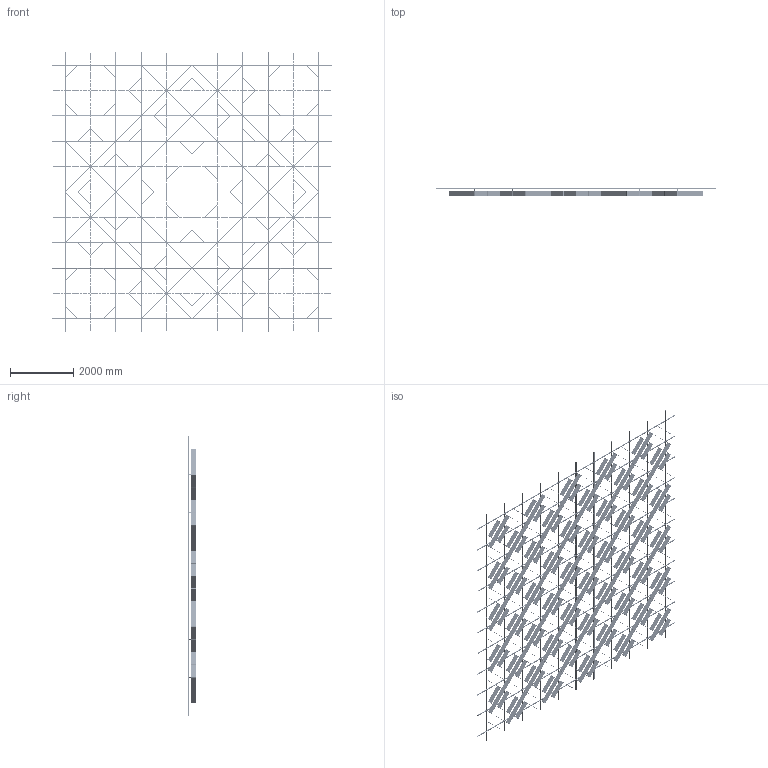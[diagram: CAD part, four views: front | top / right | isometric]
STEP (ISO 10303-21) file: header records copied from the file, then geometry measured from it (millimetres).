
FILE_DESCRIPTION (( 'STEP AP214' ), '1' );
FILE_NAME ('OPT_Var4.STEP', '2024-04-26T06:29:00', ( '' ), ( '' ), 'SwSTEP 2.0', 'SolidWorks 2020', '' );
FILE_SCHEMA (( 'AUTOMOTIVE_DESIGN' ));
Length unit declared in the file: millimetre
Products named in the file (5): Ñèñòåìà â çîíå 8000õ8000; OPT_Var4; SS.SEMA.2400 - Ñèìà-ïðîôèëü; SS.SEMA.2400 - Ñèìà-ïðîôèëü — îáðåçàí 1600; Varp4
Assembly tree (90 placements, depth 3):
  OPT_Var4
    Ñèñòåìà â çîíå 8000õ8000
      SS.SEMA.2400 - Ñèìà-ïðîôèëü  x66
      SS.SEMA.2400 - Ñèìà-ïðîôèëü — îáðåçàí 1600  x22
    Varp4
Bounding box: 8800 x 253 x 8800 mm (x, y, z)
Volume: 282695416.8 mm3; surface area: 106314809.4 mm2
Topology: 1508 solids, 1508 shells, 23980 faces, 61484 edges, 40520 vertices
Faces by surface type: cylinder 14098, plane 9882
Entity records: 206789 total; most frequent: CARTESIAN_POINT 64914, ORIENTED_EDGE 29816, DIRECTION 17314, EDGE_CURVE 14908, VERTEX_POINT 9928, B_SPLINE_CURVE_WITH_KNOTS 9440, AXIS2_PLACEMENT_3D 8408, EDGE_LOOP 7986
